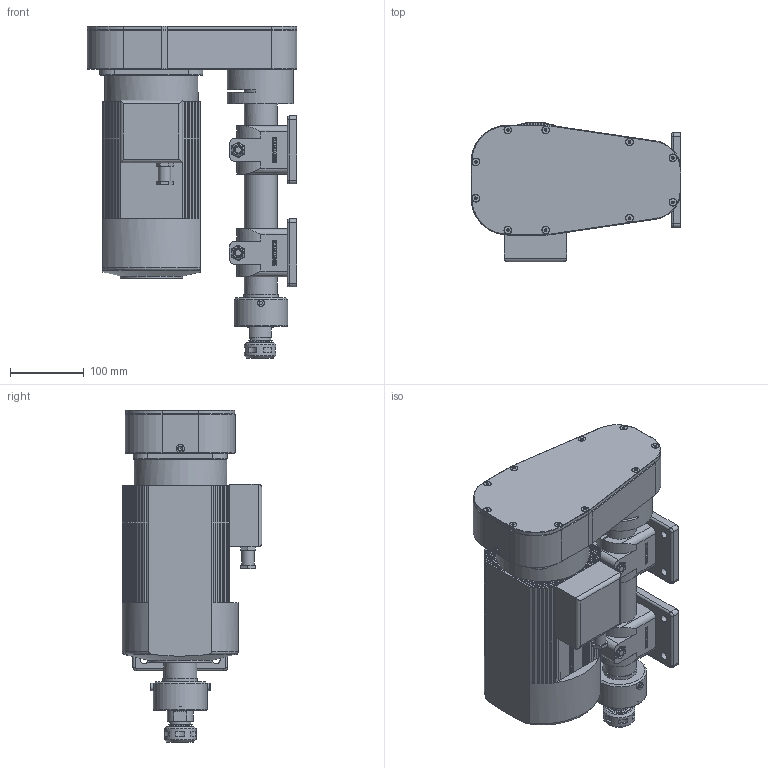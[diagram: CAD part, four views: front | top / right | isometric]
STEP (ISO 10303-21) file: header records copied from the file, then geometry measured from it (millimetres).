
FILE_DESCRIPTION(('STEP AP214'),'1');
FILE_NAME('043125-9.STP','2025-03-05T06:11:51',(' '),(' '),'Spatial InterOp 3D',' ',' ');
FILE_SCHEMA(('AUTOMOTIVE_DESIGN { 1 0 10303 214 1 1 1 1 }'));
Length unit declared in the file: millimetre
Products named in the file (1): 043125-9 F045 A-P
Bounding box: 285.5 x 190 x 451.6 mm (x, y, z)
Volume: 8404615.7 mm3; surface area: 816214.3 mm2
Topology: 1 solids, 27 shells, 2031 faces, 5170 edges, 3376 vertices
Faces by surface type: plane 1276, cylinder 393, cone 313, torus 49
Full cylindrical faces by diameter (mm): 2.298 x2, 3.217 x2, 3.3 x4, 4 x8, 4.5 x4, 5 x16, 5.3 x10, 6 x20, 6.6 x4, 6.8 x1, 7 x5, 8 x7, 8.5 x1, 9 x1, 10 x22, 10.4 x10, 10.5 x12, 10.8 x4, 11 x7, 11.4 x1, 13 x1, 14 x1, 16 x2, 17 x3, 21 x1, 22 x1, 22.6 x1, 24.6 x1, 25 x1, 29 x1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
Entity records: 59698 total; most frequent: CARTESIAN_POINT 12157, DIRECTION 9683, ORIENTED_EDGE 9316, EDGE_CURVE 4658, AXIS2_PLACEMENT_3D 3301, VERTEX_POINT 3245, LINE 3081, VECTOR 3081
